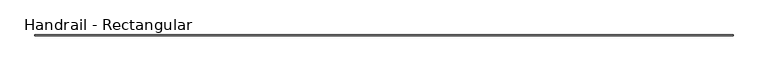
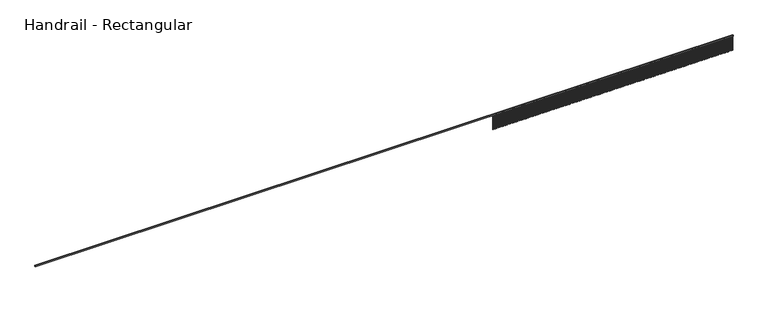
"""IFC4 building model written with IfcOpenShell, lengths in millimetres: railing geometry, Handrail - Rectangular."""

from ifc_helpers import new_model, si_unit, frame, origin, place, context, project, spatial, polyline, outline, extrude, source, transform, mapped, element, save


def handrail_rectangular_5135126e(model_context):
    return source(origin(), model_context, "Body", "SweptSolid", [
        extrude(outline(polyline([(-10763.3058351, 4050.8975872), (-10763.3058351, 4101.6975872), (29484.5633409, 4101.6975872), (29484.5633409, 4050.8975872), (-10763.3058351, 4050.8975872)])), frame((0.0, 0.0, 4521.2), z_axis=(0.0, 0.0, 1.0), x_axis=(1.0, 0.0, 0.0)), (0.0, 0.0, 1.0), 50.8),
        extrude(outline(polyline([(29460.7691649, 4066.7725872), (29460.7691649, 4085.8225872), (29479.8191649, 4085.8225872), (29479.8191649, 4066.7725872), (29460.7691649, 4066.7725872)])), frame((0.0, 0.0, 3657.6), z_axis=(0.0, 0.0, 1.0), x_axis=(1.0, 0.0, 0.0)), (0.0, 0.0, 1.0), 863.6),
        extrude(outline(polyline([(29359.1691649, 4066.7725872), (29359.1691649, 4085.8225872), (29378.2191649, 4085.8225872), (29378.2191649, 4066.7725872), (29359.1691649, 4066.7725872)])), frame((0.0, 0.0, 3657.6), z_axis=(0.0, 0.0, 1.0), x_axis=(1.0, 0.0, 0.0)), (0.0, 0.0, 1.0), 863.6),
        extrude(outline(polyline([(29257.5691649, 4066.7725872), (29257.5691649, 4085.8225872), (29276.6191649, 4085.8225872), (29276.6191649, 4066.7725872), (29257.5691649, 4066.7725872)])), frame((0.0, 0.0, 3657.6), z_axis=(0.0, 0.0, 1.0), x_axis=(1.0, 0.0, 0.0)), (0.0, 0.0, 1.0), 863.6),
        extrude(outline(polyline([(29155.9691649, 4066.7725872), (29155.9691649, 4085.8225872), (29175.0191649, 4085.8225872), (29175.0191649, 4066.7725872), (29155.9691649, 4066.7725872)])), frame((0.0, 0.0, 3657.6), z_axis=(0.0, 0.0, 1.0), x_axis=(1.0, 0.0, 0.0)), (0.0, 0.0, 1.0), 863.6),
        extrude(outline(polyline([(29054.3691649, 4066.7725872), (29054.3691649, 4085.8225872), (29073.4191649, 4085.8225872), (29073.4191649, 4066.7725872), (29054.3691649, 4066.7725872)])), frame((0.0, 0.0, 3657.6), z_axis=(0.0, 0.0, 1.0), x_axis=(1.0, 0.0, 0.0)), (0.0, 0.0, 1.0), 863.6),
        extrude(outline(polyline([(28952.7691649, 4066.7725872), (28952.7691649, 4085.8225872), (28971.8191649, 4085.8225872), (28971.8191649, 4066.7725872), (28952.7691649, 4066.7725872)])), frame((0.0, 0.0, 3657.6), z_axis=(0.0, 0.0, 1.0), x_axis=(1.0, 0.0, 0.0)), (0.0, 0.0, 1.0), 863.6),
        extrude(outline(polyline([(28851.1691649, 4066.7725872), (28851.1691649, 4085.8225872), (28870.2191649, 4085.8225872), (28870.2191649, 4066.7725872), (28851.1691649, 4066.7725872)])), frame((0.0, 0.0, 3657.6), z_axis=(0.0, 0.0, 1.0), x_axis=(1.0, 0.0, 0.0)), (0.0, 0.0, 1.0), 863.6),
        extrude(outline(polyline([(28749.5691649, 4066.7725872), (28749.5691649, 4085.8225872), (28768.6191649, 4085.8225872), (28768.6191649, 4066.7725872), (28749.5691649, 4066.7725872)])), frame((0.0, 0.0, 3657.6), z_axis=(0.0, 0.0, 1.0), x_axis=(1.0, 0.0, 0.0)), (0.0, 0.0, 1.0), 863.6),
        extrude(outline(polyline([(28647.9691649, 4066.7725872), (28647.9691649, 4085.8225872), (28667.0191649, 4085.8225872), (28667.0191649, 4066.7725872), (28647.9691649, 4066.7725872)])), frame((0.0, 0.0, 3657.6), z_axis=(0.0, 0.0, 1.0), x_axis=(1.0, 0.0, 0.0)), (0.0, 0.0, 1.0), 863.6),
        extrude(outline(polyline([(28546.3691649, 4066.7725872), (28546.3691649, 4085.8225872), (28565.4191649, 4085.8225872), (28565.4191649, 4066.7725872), (28546.3691649, 4066.7725872)])), frame((0.0, 0.0, 3657.6), z_axis=(0.0, 0.0, 1.0), x_axis=(1.0, 0.0, 0.0)), (0.0, 0.0, 1.0), 863.6),
        extrude(outline(polyline([(28444.7691649, 4066.7725872), (28444.7691649, 4085.8225872), (28463.8191649, 4085.8225872), (28463.8191649, 4066.7725872), (28444.7691649, 4066.7725872)])), frame((0.0, 0.0, 3657.6), z_axis=(0.0, 0.0, 1.0), x_axis=(1.0, 0.0, 0.0)), (0.0, 0.0, 1.0), 863.6),
        extrude(outline(polyline([(28343.1691649, 4066.7725872), (28343.1691649, 4085.8225872), (28362.2191649, 4085.8225872), (28362.2191649, 4066.7725872), (28343.1691649, 4066.7725872)])), frame((0.0, 0.0, 3657.6), z_axis=(0.0, 0.0, 1.0), x_axis=(1.0, 0.0, 0.0)), (0.0, 0.0, 1.0), 863.6),
        extrude(outline(polyline([(28241.5691649, 4066.7725872), (28241.5691649, 4085.8225872), (28260.6191649, 4085.8225872), (28260.6191649, 4066.7725872), (28241.5691649, 4066.7725872)])), frame((0.0, 0.0, 3657.6), z_axis=(0.0, 0.0, 1.0), x_axis=(1.0, 0.0, 0.0)), (0.0, 0.0, 1.0), 863.6),
        extrude(outline(polyline([(28139.9691649, 4066.7725872), (28139.9691649, 4085.8225872), (28159.0191649, 4085.8225872), (28159.0191649, 4066.7725872), (28139.9691649, 4066.7725872)])), frame((0.0, 0.0, 3657.6), z_axis=(0.0, 0.0, 1.0), x_axis=(1.0, 0.0, 0.0)), (0.0, 0.0, 1.0), 863.6),
        extrude(outline(polyline([(28038.3691649, 4066.7725872), (28038.3691649, 4085.8225872), (28057.4191649, 4085.8225872), (28057.4191649, 4066.7725872), (28038.3691649, 4066.7725872)])), frame((0.0, 0.0, 3657.6), z_axis=(0.0, 0.0, 1.0), x_axis=(1.0, 0.0, 0.0)), (0.0, 0.0, 1.0), 863.6),
        extrude(outline(polyline([(27936.7691649, 4066.7725872), (27936.7691649, 4085.8225872), (27955.8191649, 4085.8225872), (27955.8191649, 4066.7725872), (27936.7691649, 4066.7725872)])), frame((0.0, 0.0, 3657.6), z_axis=(0.0, 0.0, 1.0), x_axis=(1.0, 0.0, 0.0)), (0.0, 0.0, 1.0), 863.6),
        extrude(outline(polyline([(27835.1691649, 4066.7725872), (27835.1691649, 4085.8225872), (27854.2191649, 4085.8225872), (27854.2191649, 4066.7725872), (27835.1691649, 4066.7725872)])), frame((0.0, 0.0, 3657.6), z_axis=(0.0, 0.0, 1.0), x_axis=(1.0, 0.0, 0.0)), (0.0, 0.0, 1.0), 863.6),
        extrude(outline(polyline([(27733.5691649, 4066.7725872), (27733.5691649, 4085.8225872), (27752.6191649, 4085.8225872), (27752.6191649, 4066.7725872), (27733.5691649, 4066.7725872)])), frame((0.0, 0.0, 3657.6), z_axis=(0.0, 0.0, 1.0), x_axis=(1.0, 0.0, 0.0)), (0.0, 0.0, 1.0), 863.6),
        extrude(outline(polyline([(27631.9691649, 4066.7725872), (27631.9691649, 4085.8225872), (27651.0191649, 4085.8225872), (27651.0191649, 4066.7725872), (27631.9691649, 4066.7725872)])), frame((0.0, 0.0, 3657.6), z_axis=(0.0, 0.0, 1.0), x_axis=(1.0, 0.0, 0.0)), (0.0, 0.0, 1.0), 863.6),
        extrude(outline(polyline([(27530.3691649, 4066.7725872), (27530.3691649, 4085.8225872), (27549.4191649, 4085.8225872), (27549.4191649, 4066.7725872), (27530.3691649, 4066.7725872)])), frame((0.0, 0.0, 3657.6), z_axis=(0.0, 0.0, 1.0), x_axis=(1.0, 0.0, 0.0)), (0.0, 0.0, 1.0), 863.6),
        extrude(outline(polyline([(27428.7691649, 4066.7725872), (27428.7691649, 4085.8225872), (27447.8191649, 4085.8225872), (27447.8191649, 4066.7725872), (27428.7691649, 4066.7725872)])), frame((0.0, 0.0, 3657.6), z_axis=(0.0, 0.0, 1.0), x_axis=(1.0, 0.0, 0.0)), (0.0, 0.0, 1.0), 863.6),
        extrude(outline(polyline([(27327.1691649, 4066.7725872), (27327.1691649, 4085.8225872), (27346.2191649, 4085.8225872), (27346.2191649, 4066.7725872), (27327.1691649, 4066.7725872)])), frame((0.0, 0.0, 3657.6), z_axis=(0.0, 0.0, 1.0), x_axis=(1.0, 0.0, 0.0)), (0.0, 0.0, 1.0), 863.6),
        extrude(outline(polyline([(27225.5691649, 4066.7725872), (27225.5691649, 4085.8225872), (27244.6191649, 4085.8225872), (27244.6191649, 4066.7725872), (27225.5691649, 4066.7725872)])), frame((0.0, 0.0, 3657.6), z_axis=(0.0, 0.0, 1.0), x_axis=(1.0, 0.0, 0.0)), (0.0, 0.0, 1.0), 863.6),
        extrude(outline(polyline([(27123.9691649, 4066.7725872), (27123.9691649, 4085.8225872), (27143.0191649, 4085.8225872), (27143.0191649, 4066.7725872), (27123.9691649, 4066.7725872)])), frame((0.0, 0.0, 3657.6), z_axis=(0.0, 0.0, 1.0), x_axis=(1.0, 0.0, 0.0)), (0.0, 0.0, 1.0), 863.6),
        extrude(outline(polyline([(27022.3691649, 4066.7725872), (27022.3691649, 4085.8225872), (27041.4191649, 4085.8225872), (27041.4191649, 4066.7725872), (27022.3691649, 4066.7725872)])), frame((0.0, 0.0, 3657.6), z_axis=(0.0, 0.0, 1.0), x_axis=(1.0, 0.0, 0.0)), (0.0, 0.0, 1.0), 863.6),
        extrude(outline(polyline([(26920.7691649, 4066.7725872), (26920.7691649, 4085.8225872), (26939.8191649, 4085.8225872), (26939.8191649, 4066.7725872), (26920.7691649, 4066.7725872)])), frame((0.0, 0.0, 3657.6), z_axis=(0.0, 0.0, 1.0), x_axis=(1.0, 0.0, 0.0)), (0.0, 0.0, 1.0), 863.6),
        extrude(outline(polyline([(26819.1691649, 4066.7725872), (26819.1691649, 4085.8225872), (26838.2191649, 4085.8225872), (26838.2191649, 4066.7725872), (26819.1691649, 4066.7725872)])), frame((0.0, 0.0, 3657.6), z_axis=(0.0, 0.0, 1.0), x_axis=(1.0, 0.0, 0.0)), (0.0, 0.0, 1.0), 863.6),
        extrude(outline(polyline([(26717.5691649, 4066.7725872), (26717.5691649, 4085.8225872), (26736.6191649, 4085.8225872), (26736.6191649, 4066.7725872), (26717.5691649, 4066.7725872)])), frame((0.0, 0.0, 3657.6), z_axis=(0.0, 0.0, 1.0), x_axis=(1.0, 0.0, 0.0)), (0.0, 0.0, 1.0), 863.6),
        extrude(outline(polyline([(26615.9691649, 4066.7725872), (26615.9691649, 4085.8225872), (26635.0191649, 4085.8225872), (26635.0191649, 4066.7725872), (26615.9691649, 4066.7725872)])), frame((0.0, 0.0, 3657.6), z_axis=(0.0, 0.0, 1.0), x_axis=(1.0, 0.0, 0.0)), (0.0, 0.0, 1.0), 863.6),
        extrude(outline(polyline([(26514.3691649, 4066.7725872), (26514.3691649, 4085.8225872), (26533.4191649, 4085.8225872), (26533.4191649, 4066.7725872), (26514.3691649, 4066.7725872)])), frame((0.0, 0.0, 3657.6), z_axis=(0.0, 0.0, 1.0), x_axis=(1.0, 0.0, 0.0)), (0.0, 0.0, 1.0), 863.6),
        extrude(outline(polyline([(26412.7691649, 4066.7725872), (26412.7691649, 4085.8225872), (26431.8191649, 4085.8225872), (26431.8191649, 4066.7725872), (26412.7691649, 4066.7725872)])), frame((0.0, 0.0, 3657.6), z_axis=(0.0, 0.0, 1.0), x_axis=(1.0, 0.0, 0.0)), (0.0, 0.0, 1.0), 863.6),
        extrude(outline(polyline([(26311.1691649, 4066.7725872), (26311.1691649, 4085.8225872), (26330.2191649, 4085.8225872), (26330.2191649, 4066.7725872), (26311.1691649, 4066.7725872)])), frame((0.0, 0.0, 3657.6), z_axis=(0.0, 0.0, 1.0), x_axis=(1.0, 0.0, 0.0)), (0.0, 0.0, 1.0), 863.6),
        extrude(outline(polyline([(26209.5691649, 4066.7725872), (26209.5691649, 4085.8225872), (26228.6191649, 4085.8225872), (26228.6191649, 4066.7725872), (26209.5691649, 4066.7725872)])), frame((0.0, 0.0, 3657.6), z_axis=(0.0, 0.0, 1.0), x_axis=(1.0, 0.0, 0.0)), (0.0, 0.0, 1.0), 863.6),
        extrude(outline(polyline([(26107.9691649, 4066.7725872), (26107.9691649, 4085.8225872), (26127.0191649, 4085.8225872), (26127.0191649, 4066.7725872), (26107.9691649, 4066.7725872)])), frame((0.0, 0.0, 3657.6), z_axis=(0.0, 0.0, 1.0), x_axis=(1.0, 0.0, 0.0)), (0.0, 0.0, 1.0), 863.6),
        extrude(outline(polyline([(26006.3691649, 4066.7725872), (26006.3691649, 4085.8225872), (26025.4191649, 4085.8225872), (26025.4191649, 4066.7725872), (26006.3691649, 4066.7725872)])), frame((0.0, 0.0, 3657.6), z_axis=(0.0, 0.0, 1.0), x_axis=(1.0, 0.0, 0.0)), (0.0, 0.0, 1.0), 863.6),
        extrude(outline(polyline([(25904.7691649, 4066.7725872), (25904.7691649, 4085.8225872), (25923.8191649, 4085.8225872), (25923.8191649, 4066.7725872), (25904.7691649, 4066.7725872)])), frame((0.0, 0.0, 3657.6), z_axis=(0.0, 0.0, 1.0), x_axis=(1.0, 0.0, 0.0)), (0.0, 0.0, 1.0), 863.6),
        extrude(outline(polyline([(25803.1691649, 4066.7725872), (25803.1691649, 4085.8225872), (25822.2191649, 4085.8225872), (25822.2191649, 4066.7725872), (25803.1691649, 4066.7725872)])), frame((0.0, 0.0, 3657.6), z_axis=(0.0, 0.0, 1.0), x_axis=(1.0, 0.0, 0.0)), (0.0, 0.0, 1.0), 863.6),
        extrude(outline(polyline([(25701.5691649, 4066.7725872), (25701.5691649, 4085.8225872), (25720.6191649, 4085.8225872), (25720.6191649, 4066.7725872), (25701.5691649, 4066.7725872)])), frame((0.0, 0.0, 3657.6), z_axis=(0.0, 0.0, 1.0), x_axis=(1.0, 0.0, 0.0)), (0.0, 0.0, 1.0), 863.6),
        extrude(outline(polyline([(25599.9691649, 4066.7725872), (25599.9691649, 4085.8225872), (25619.0191649, 4085.8225872), (25619.0191649, 4066.7725872), (25599.9691649, 4066.7725872)])), frame((0.0, 0.0, 3657.6), z_axis=(0.0, 0.0, 1.0), x_axis=(1.0, 0.0, 0.0)), (0.0, 0.0, 1.0), 863.6),
        extrude(outline(polyline([(25498.3691649, 4066.7725872), (25498.3691649, 4085.8225872), (25517.4191649, 4085.8225872), (25517.4191649, 4066.7725872), (25498.3691649, 4066.7725872)])), frame((0.0, 0.0, 3657.6), z_axis=(0.0, 0.0, 1.0), x_axis=(1.0, 0.0, 0.0)), (0.0, 0.0, 1.0), 863.6),
        extrude(outline(polyline([(25396.7691649, 4066.7725872), (25396.7691649, 4085.8225872), (25415.8191649, 4085.8225872), (25415.8191649, 4066.7725872), (25396.7691649, 4066.7725872)])), frame((0.0, 0.0, 3657.6), z_axis=(0.0, 0.0, 1.0), x_axis=(1.0, 0.0, 0.0)), (0.0, 0.0, 1.0), 863.6),
        extrude(outline(polyline([(25295.1691649, 4066.7725872), (25295.1691649, 4085.8225872), (25314.2191649, 4085.8225872), (25314.2191649, 4066.7725872), (25295.1691649, 4066.7725872)])), frame((0.0, 0.0, 3657.6), z_axis=(0.0, 0.0, 1.0), x_axis=(1.0, 0.0, 0.0)), (0.0, 0.0, 1.0), 863.6),
        extrude(outline(polyline([(25193.5691649, 4066.7725872), (25193.5691649, 4085.8225872), (25212.6191649, 4085.8225872), (25212.6191649, 4066.7725872), (25193.5691649, 4066.7725872)])), frame((0.0, 0.0, 3657.6), z_axis=(0.0, 0.0, 1.0), x_axis=(1.0, 0.0, 0.0)), (0.0, 0.0, 1.0), 863.6),
        extrude(outline(polyline([(25091.9691649, 4066.7725872), (25091.9691649, 4085.8225872), (25111.0191649, 4085.8225872), (25111.0191649, 4066.7725872), (25091.9691649, 4066.7725872)])), frame((0.0, 0.0, 3657.6), z_axis=(0.0, 0.0, 1.0), x_axis=(1.0, 0.0, 0.0)), (0.0, 0.0, 1.0), 863.6),
        extrude(outline(polyline([(24990.3691649, 4066.7725872), (24990.3691649, 4085.8225872), (25009.4191649, 4085.8225872), (25009.4191649, 4066.7725872), (24990.3691649, 4066.7725872)])), frame((0.0, 0.0, 3657.6), z_axis=(0.0, 0.0, 1.0), x_axis=(1.0, 0.0, 0.0)), (0.0, 0.0, 1.0), 863.6),
        extrude(outline(polyline([(24888.7691649, 4066.7725872), (24888.7691649, 4085.8225872), (24907.8191649, 4085.8225872), (24907.8191649, 4066.7725872), (24888.7691649, 4066.7725872)])), frame((0.0, 0.0, 3657.6), z_axis=(0.0, 0.0, 1.0), x_axis=(1.0, 0.0, 0.0)), (0.0, 0.0, 1.0), 863.6),
        extrude(outline(polyline([(24787.1691649, 4066.7725872), (24787.1691649, 4085.8225872), (24806.2191649, 4085.8225872), (24806.2191649, 4066.7725872), (24787.1691649, 4066.7725872)])), frame((0.0, 0.0, 3657.6), z_axis=(0.0, 0.0, 1.0), x_axis=(1.0, 0.0, 0.0)), (0.0, 0.0, 1.0), 863.6),
        extrude(outline(polyline([(24685.5691649, 4066.7725872), (24685.5691649, 4085.8225872), (24704.6191649, 4085.8225872), (24704.6191649, 4066.7725872), (24685.5691649, 4066.7725872)])), frame((0.0, 0.0, 3657.6), z_axis=(0.0, 0.0, 1.0), x_axis=(1.0, 0.0, 0.0)), (0.0, 0.0, 1.0), 863.6),
        extrude(outline(polyline([(24583.9691649, 4066.7725872), (24583.9691649, 4085.8225872), (24603.0191649, 4085.8225872), (24603.0191649, 4066.7725872), (24583.9691649, 4066.7725872)])), frame((0.0, 0.0, 3657.6), z_axis=(0.0, 0.0, 1.0), x_axis=(1.0, 0.0, 0.0)), (0.0, 0.0, 1.0), 863.6),
        extrude(outline(polyline([(24482.3691649, 4066.7725872), (24482.3691649, 4085.8225872), (24501.4191649, 4085.8225872), (24501.4191649, 4066.7725872), (24482.3691649, 4066.7725872)])), frame((0.0, 0.0, 3657.6), z_axis=(0.0, 0.0, 1.0), x_axis=(1.0, 0.0, 0.0)), (0.0, 0.0, 1.0), 863.6),
        extrude(outline(polyline([(24380.7691649, 4066.7725872), (24380.7691649, 4085.8225872), (24399.8191649, 4085.8225872), (24399.8191649, 4066.7725872), (24380.7691649, 4066.7725872)])), frame((0.0, 0.0, 3657.6), z_axis=(0.0, 0.0, 1.0), x_axis=(1.0, 0.0, 0.0)), (0.0, 0.0, 1.0), 863.6),
        extrude(outline(polyline([(24279.1691649, 4066.7725872), (24279.1691649, 4085.8225872), (24298.2191649, 4085.8225872), (24298.2191649, 4066.7725872), (24279.1691649, 4066.7725872)])), frame((0.0, 0.0, 3657.6), z_axis=(0.0, 0.0, 1.0), x_axis=(1.0, 0.0, 0.0)), (0.0, 0.0, 1.0), 863.6),
        extrude(outline(polyline([(24177.5691649, 4066.7725872), (24177.5691649, 4085.8225872), (24196.6191649, 4085.8225872), (24196.6191649, 4066.7725872), (24177.5691649, 4066.7725872)])), frame((0.0, 0.0, 3657.6), z_axis=(0.0, 0.0, 1.0), x_axis=(1.0, 0.0, 0.0)), (0.0, 0.0, 1.0), 863.6),
        extrude(outline(polyline([(24075.9691649, 4066.7725872), (24075.9691649, 4085.8225872), (24095.0191649, 4085.8225872), (24095.0191649, 4066.7725872), (24075.9691649, 4066.7725872)])), frame((0.0, 0.0, 3657.6), z_axis=(0.0, 0.0, 1.0), x_axis=(1.0, 0.0, 0.0)), (0.0, 0.0, 1.0), 863.6),
        extrude(outline(polyline([(23974.3691649, 4066.7725872), (23974.3691649, 4085.8225872), (23993.4191649, 4085.8225872), (23993.4191649, 4066.7725872), (23974.3691649, 4066.7725872)])), frame((0.0, 0.0, 3657.6), z_axis=(0.0, 0.0, 1.0), x_axis=(1.0, 0.0, 0.0)), (0.0, 0.0, 1.0), 863.6),
        extrude(outline(polyline([(23872.7691649, 4066.7725872), (23872.7691649, 4085.8225872), (23891.8191649, 4085.8225872), (23891.8191649, 4066.7725872), (23872.7691649, 4066.7725872)])), frame((0.0, 0.0, 3657.6), z_axis=(0.0, 0.0, 1.0), x_axis=(1.0, 0.0, 0.0)), (0.0, 0.0, 1.0), 863.6),
        extrude(outline(polyline([(23771.1691649, 4066.7725872), (23771.1691649, 4085.8225872), (23790.2191649, 4085.8225872), (23790.2191649, 4066.7725872), (23771.1691649, 4066.7725872)])), frame((0.0, 0.0, 3657.6), z_axis=(0.0, 0.0, 1.0), x_axis=(1.0, 0.0, 0.0)), (0.0, 0.0, 1.0), 863.6),
        extrude(outline(polyline([(23669.5691649, 4066.7725872), (23669.5691649, 4085.8225872), (23688.6191649, 4085.8225872), (23688.6191649, 4066.7725872), (23669.5691649, 4066.7725872)])), frame((0.0, 0.0, 3657.6), z_axis=(0.0, 0.0, 1.0), x_axis=(1.0, 0.0, 0.0)), (0.0, 0.0, 1.0), 863.6),
        extrude(outline(polyline([(23567.9691649, 4066.7725872), (23567.9691649, 4085.8225872), (23587.0191649, 4085.8225872), (23587.0191649, 4066.7725872), (23567.9691649, 4066.7725872)])), frame((0.0, 0.0, 3657.6), z_axis=(0.0, 0.0, 1.0), x_axis=(1.0, 0.0, 0.0)), (0.0, 0.0, 1.0), 863.6),
        extrude(outline(polyline([(23466.3691649, 4066.7725872), (23466.3691649, 4085.8225872), (23485.4191649, 4085.8225872), (23485.4191649, 4066.7725872), (23466.3691649, 4066.7725872)])), frame((0.0, 0.0, 3657.6), z_axis=(0.0, 0.0, 1.0), x_axis=(1.0, 0.0, 0.0)), (0.0, 0.0, 1.0), 863.6),
        extrude(outline(polyline([(23364.7691649, 4066.7725872), (23364.7691649, 4085.8225872), (23383.8191649, 4085.8225872), (23383.8191649, 4066.7725872), (23364.7691649, 4066.7725872)])), frame((0.0, 0.0, 3657.6), z_axis=(0.0, 0.0, 1.0), x_axis=(1.0, 0.0, 0.0)), (0.0, 0.0, 1.0), 863.6),
        extrude(outline(polyline([(23263.1691649, 4066.7725872), (23263.1691649, 4085.8225872), (23282.2191649, 4085.8225872), (23282.2191649, 4066.7725872), (23263.1691649, 4066.7725872)])), frame((0.0, 0.0, 3657.6), z_axis=(0.0, 0.0, 1.0), x_axis=(1.0, 0.0, 0.0)), (0.0, 0.0, 1.0), 863.6),
        extrude(outline(polyline([(23161.5691649, 4066.7725872), (23161.5691649, 4085.8225872), (23180.6191649, 4085.8225872), (23180.6191649, 4066.7725872), (23161.5691649, 4066.7725872)])), frame((0.0, 0.0, 3657.6), z_axis=(0.0, 0.0, 1.0), x_axis=(1.0, 0.0, 0.0)), (0.0, 0.0, 1.0), 863.6),
        extrude(outline(polyline([(23059.9691649, 4066.7725872), (23059.9691649, 4085.8225872), (23079.0191649, 4085.8225872), (23079.0191649, 4066.7725872), (23059.9691649, 4066.7725872)])), frame((0.0, 0.0, 3657.6), z_axis=(0.0, 0.0, 1.0), x_axis=(1.0, 0.0, 0.0)), (0.0, 0.0, 1.0), 863.6),
        extrude(outline(polyline([(22958.3691649, 4066.7725872), (22958.3691649, 4085.8225872), (22977.4191649, 4085.8225872), (22977.4191649, 4066.7725872), (22958.3691649, 4066.7725872)])), frame((0.0, 0.0, 3657.6), z_axis=(0.0, 0.0, 1.0), x_axis=(1.0, 0.0, 0.0)), (0.0, 0.0, 1.0), 863.6),
        extrude(outline(polyline([(22856.7691649, 4066.7725872), (22856.7691649, 4085.8225872), (22875.8191649, 4085.8225872), (22875.8191649, 4066.7725872), (22856.7691649, 4066.7725872)])), frame((0.0, 0.0, 3657.6), z_axis=(0.0, 0.0, 1.0), x_axis=(1.0, 0.0, 0.0)), (0.0, 0.0, 1.0), 863.6),
        extrude(outline(polyline([(22755.1691649, 4066.7725872), (22755.1691649, 4085.8225872), (22774.2191649, 4085.8225872), (22774.2191649, 4066.7725872), (22755.1691649, 4066.7725872)])), frame((0.0, 0.0, 3657.6), z_axis=(0.0, 0.0, 1.0), x_axis=(1.0, 0.0, 0.0)), (0.0, 0.0, 1.0), 863.6),
        extrude(outline(polyline([(22653.5691649, 4066.7725872), (22653.5691649, 4085.8225872), (22672.6191649, 4085.8225872), (22672.6191649, 4066.7725872), (22653.5691649, 4066.7725872)])), frame((0.0, 0.0, 3657.6), z_axis=(0.0, 0.0, 1.0), x_axis=(1.0, 0.0, 0.0)), (0.0, 0.0, 1.0), 863.6),
        extrude(outline(polyline([(22551.9691649, 4066.7725872), (22551.9691649, 4085.8225872), (22571.0191649, 4085.8225872), (22571.0191649, 4066.7725872), (22551.9691649, 4066.7725872)])), frame((0.0, 0.0, 3657.6), z_axis=(0.0, 0.0, 1.0), x_axis=(1.0, 0.0, 0.0)), (0.0, 0.0, 1.0), 863.6),
        extrude(outline(polyline([(22450.3691649, 4066.7725872), (22450.3691649, 4085.8225872), (22469.4191649, 4085.8225872), (22469.4191649, 4066.7725872), (22450.3691649, 4066.7725872)])), frame((0.0, 0.0, 3657.6), z_axis=(0.0, 0.0, 1.0), x_axis=(1.0, 0.0, 0.0)), (0.0, 0.0, 1.0), 863.6),
        extrude(outline(polyline([(22348.7691649, 4066.7725872), (22348.7691649, 4085.8225872), (22367.8191649, 4085.8225872), (22367.8191649, 4066.7725872), (22348.7691649, 4066.7725872)])), frame((0.0, 0.0, 3657.6), z_axis=(0.0, 0.0, 1.0), x_axis=(1.0, 0.0, 0.0)), (0.0, 0.0, 1.0), 863.6),
        extrude(outline(polyline([(22247.1691649, 4066.7725872), (22247.1691649, 4085.8225872), (22266.2191649, 4085.8225872), (22266.2191649, 4066.7725872), (22247.1691649, 4066.7725872)])), frame((0.0, 0.0, 3657.6), z_axis=(0.0, 0.0, 1.0), x_axis=(1.0, 0.0, 0.0)), (0.0, 0.0, 1.0), 863.6),
        extrude(outline(polyline([(22145.5691649, 4066.7725872), (22145.5691649, 4085.8225872), (22164.6191649, 4085.8225872), (22164.6191649, 4066.7725872), (22145.5691649, 4066.7725872)])), frame((0.0, 0.0, 3657.6), z_axis=(0.0, 0.0, 1.0), x_axis=(1.0, 0.0, 0.0)), (0.0, 0.0, 1.0), 863.6),
        extrude(outline(polyline([(22043.9691649, 4066.7725872), (22043.9691649, 4085.8225872), (22063.0191649, 4085.8225872), (22063.0191649, 4066.7725872), (22043.9691649, 4066.7725872)])), frame((0.0, 0.0, 3657.6), z_axis=(0.0, 0.0, 1.0), x_axis=(1.0, 0.0, 0.0)), (0.0, 0.0, 1.0), 863.6),
        extrude(outline(polyline([(21942.3691649, 4066.7725872), (21942.3691649, 4085.8225872), (21961.4191649, 4085.8225872), (21961.4191649, 4066.7725872), (21942.3691649, 4066.7725872)])), frame((0.0, 0.0, 3657.6), z_axis=(0.0, 0.0, 1.0), x_axis=(1.0, 0.0, 0.0)), (0.0, 0.0, 1.0), 863.6),
        extrude(outline(polyline([(21840.7691649, 4066.7725872), (21840.7691649, 4085.8225872), (21859.8191649, 4085.8225872), (21859.8191649, 4066.7725872), (21840.7691649, 4066.7725872)])), frame((0.0, 0.0, 3657.6), z_axis=(0.0, 0.0, 1.0), x_axis=(1.0, 0.0, 0.0)), (0.0, 0.0, 1.0), 863.6),
        extrude(outline(polyline([(21739.1691649, 4066.7725872), (21739.1691649, 4085.8225872), (21758.2191649, 4085.8225872), (21758.2191649, 4066.7725872), (21739.1691649, 4066.7725872)])), frame((0.0, 0.0, 3657.6), z_axis=(0.0, 0.0, 1.0), x_axis=(1.0, 0.0, 0.0)), (0.0, 0.0, 1.0), 863.6),
        extrude(outline(polyline([(21637.5691649, 4066.7725872), (21637.5691649, 4085.8225872), (21656.6191649, 4085.8225872), (21656.6191649, 4066.7725872), (21637.5691649, 4066.7725872)])), frame((0.0, 0.0, 3657.6), z_axis=(0.0, 0.0, 1.0), x_axis=(1.0, 0.0, 0.0)), (0.0, 0.0, 1.0), 863.6),
        extrude(outline(polyline([(21535.9691649, 4066.7725872), (21535.9691649, 4085.8225872), (21555.0191649, 4085.8225872), (21555.0191649, 4066.7725872), (21535.9691649, 4066.7725872)])), frame((0.0, 0.0, 3657.6), z_axis=(0.0, 0.0, 1.0), x_axis=(1.0, 0.0, 0.0)), (0.0, 0.0, 1.0), 863.6),
        extrude(outline(polyline([(21434.3691649, 4066.7725872), (21434.3691649, 4085.8225872), (21453.4191649, 4085.8225872), (21453.4191649, 4066.7725872), (21434.3691649, 4066.7725872)])), frame((0.0, 0.0, 3657.6), z_axis=(0.0, 0.0, 1.0), x_axis=(1.0, 0.0, 0.0)), (0.0, 0.0, 1.0), 863.6),
        extrude(outline(polyline([(21332.7691649, 4066.7725872), (21332.7691649, 4085.8225872), (21351.8191649, 4085.8225872), (21351.8191649, 4066.7725872), (21332.7691649, 4066.7725872)])), frame((0.0, 0.0, 3657.6), z_axis=(0.0, 0.0, 1.0), x_axis=(1.0, 0.0, 0.0)), (0.0, 0.0, 1.0), 863.6),
        extrude(outline(polyline([(21231.1691649, 4066.7725872), (21231.1691649, 4085.8225872), (21250.2191649, 4085.8225872), (21250.2191649, 4066.7725872), (21231.1691649, 4066.7725872)])), frame((0.0, 0.0, 3657.6), z_axis=(0.0, 0.0, 1.0), x_axis=(1.0, 0.0, 0.0)), (0.0, 0.0, 1.0), 863.6),
        extrude(outline(polyline([(21129.5691649, 4066.7725872), (21129.5691649, 4085.8225872), (21148.6191649, 4085.8225872), (21148.6191649, 4066.7725872), (21129.5691649, 4066.7725872)])), frame((0.0, 0.0, 3657.6), z_axis=(0.0, 0.0, 1.0), x_axis=(1.0, 0.0, 0.0)), (0.0, 0.0, 1.0), 863.6),
        extrude(outline(polyline([(21027.9691649, 4066.7725872), (21027.9691649, 4085.8225872), (21047.0191649, 4085.8225872), (21047.0191649, 4066.7725872), (21027.9691649, 4066.7725872)])), frame((0.0, 0.0, 3657.6), z_axis=(0.0, 0.0, 1.0), x_axis=(1.0, 0.0, 0.0)), (0.0, 0.0, 1.0), 863.6),
        extrude(outline(polyline([(20926.3691649, 4066.7725872), (20926.3691649, 4085.8225872), (20945.4191649, 4085.8225872), (20945.4191649, 4066.7725872), (20926.3691649, 4066.7725872)])), frame((0.0, 0.0, 3657.6), z_axis=(0.0, 0.0, 1.0), x_axis=(1.0, 0.0, 0.0)), (0.0, 0.0, 1.0), 863.6),
        extrude(outline(polyline([(20824.7691649, 4066.7725872), (20824.7691649, 4085.8225872), (20843.8191649, 4085.8225872), (20843.8191649, 4066.7725872), (20824.7691649, 4066.7725872)])), frame((0.0, 0.0, 3657.6), z_axis=(0.0, 0.0, 1.0), x_axis=(1.0, 0.0, 0.0)), (0.0, 0.0, 1.0), 863.6),
        extrude(outline(polyline([(20723.1691649, 4066.7725872), (20723.1691649, 4085.8225872), (20742.2191649, 4085.8225872), (20742.2191649, 4066.7725872), (20723.1691649, 4066.7725872)])), frame((0.0, 0.0, 3657.6), z_axis=(0.0, 0.0, 1.0), x_axis=(1.0, 0.0, 0.0)), (0.0, 0.0, 1.0), 863.6),
        extrude(outline(polyline([(20621.5691649, 4066.7725872), (20621.5691649, 4085.8225872), (20640.6191649, 4085.8225872), (20640.6191649, 4066.7725872), (20621.5691649, 4066.7725872)])), frame((0.0, 0.0, 3657.6), z_axis=(0.0, 0.0, 1.0), x_axis=(1.0, 0.0, 0.0)), (0.0, 0.0, 1.0), 863.6),
        extrude(outline(polyline([(20519.9691649, 4066.7725872), (20519.9691649, 4085.8225872), (20539.0191649, 4085.8225872), (20539.0191649, 4066.7725872), (20519.9691649, 4066.7725872)])), frame((0.0, 0.0, 3657.6), z_axis=(0.0, 0.0, 1.0), x_axis=(1.0, 0.0, 0.0)), (0.0, 0.0, 1.0), 863.6),
        extrude(outline(polyline([(20418.3691649, 4066.7725872), (20418.3691649, 4085.8225872), (20437.4191649, 4085.8225872), (20437.4191649, 4066.7725872), (20418.3691649, 4066.7725872)])), frame((0.0, 0.0, 3657.6), z_axis=(0.0, 0.0, 1.0), x_axis=(1.0, 0.0, 0.0)), (0.0, 0.0, 1.0), 863.6),
        extrude(outline(polyline([(20316.7691649, 4066.7725872), (20316.7691649, 4085.8225872), (20335.8191649, 4085.8225872), (20335.8191649, 4066.7725872), (20316.7691649, 4066.7725872)])), frame((0.0, 0.0, 3657.6), z_axis=(0.0, 0.0, 1.0), x_axis=(1.0, 0.0, 0.0)), (0.0, 0.0, 1.0), 863.6),
        extrude(outline(polyline([(20215.1691649, 4066.7725872), (20215.1691649, 4085.8225872), (20234.2191649, 4085.8225872), (20234.2191649, 4066.7725872), (20215.1691649, 4066.7725872)])), frame((0.0, 0.0, 3657.6), z_axis=(0.0, 0.0, 1.0), x_axis=(1.0, 0.0, 0.0)), (0.0, 0.0, 1.0), 863.6),
        extrude(outline(polyline([(20113.5691649, 4066.7725872), (20113.5691649, 4085.8225872), (20132.6191649, 4085.8225872), (20132.6191649, 4066.7725872), (20113.5691649, 4066.7725872)])), frame((0.0, 0.0, 3657.6), z_axis=(0.0, 0.0, 1.0), x_axis=(1.0, 0.0, 0.0)), (0.0, 0.0, 1.0), 863.6),
        extrude(outline(polyline([(20011.9691649, 4066.7725872), (20011.9691649, 4085.8225872), (20031.0191649, 4085.8225872), (20031.0191649, 4066.7725872), (20011.9691649, 4066.7725872)])), frame((0.0, 0.0, 3657.6), z_axis=(0.0, 0.0, 1.0), x_axis=(1.0, 0.0, 0.0)), (0.0, 0.0, 1.0), 863.6),
        extrude(outline(polyline([(19910.3691649, 4066.7725872), (19910.3691649, 4085.8225872), (19929.4191649, 4085.8225872), (19929.4191649, 4066.7725872), (19910.3691649, 4066.7725872)])), frame((0.0, 0.0, 3657.6), z_axis=(0.0, 0.0, 1.0), x_axis=(1.0, 0.0, 0.0)), (0.0, 0.0, 1.0), 863.6),
        extrude(outline(polyline([(19808.7691649, 4066.7725872), (19808.7691649, 4085.8225872), (19827.8191649, 4085.8225872), (19827.8191649, 4066.7725872), (19808.7691649, 4066.7725872)])), frame((0.0, 0.0, 3657.6), z_axis=(0.0, 0.0, 1.0), x_axis=(1.0, 0.0, 0.0)), (0.0, 0.0, 1.0), 863.6),
        extrude(outline(polyline([(19707.1691649, 4066.7725872), (19707.1691649, 4085.8225872), (19726.2191649, 4085.8225872), (19726.2191649, 4066.7725872), (19707.1691649, 4066.7725872)])), frame((0.0, 0.0, 3657.6), z_axis=(0.0, 0.0, 1.0), x_axis=(1.0, 0.0, 0.0)), (0.0, 0.0, 1.0), 863.6),
        extrude(outline(polyline([(19605.5691649, 4066.7725872), (19605.5691649, 4085.8225872), (19624.6191649, 4085.8225872), (19624.6191649, 4066.7725872), (19605.5691649, 4066.7725872)])), frame((0.0, 0.0, 3657.6), z_axis=(0.0, 0.0, 1.0), x_axis=(1.0, 0.0, 0.0)), (0.0, 0.0, 1.0), 863.6),
        extrude(outline(polyline([(19503.9691649, 4066.7725872), (19503.9691649, 4085.8225872), (19523.0191649, 4085.8225872), (19523.0191649, 4066.7725872), (19503.9691649, 4066.7725872)])), frame((0.0, 0.0, 3657.6), z_axis=(0.0, 0.0, 1.0), x_axis=(1.0, 0.0, 0.0)), (0.0, 0.0, 1.0), 863.6),
        extrude(outline(polyline([(19402.3691649, 4066.7725872), (19402.3691649, 4085.8225872), (19421.4191649, 4085.8225872), (19421.4191649, 4066.7725872), (19402.3691649, 4066.7725872)])), frame((0.0, 0.0, 3657.6), z_axis=(0.0, 0.0, 1.0), x_axis=(1.0, 0.0, 0.0)), (0.0, 0.0, 1.0), 863.6),
        extrude(outline(polyline([(19300.7691649, 4066.7725872), (19300.7691649, 4085.8225872), (19319.8191649, 4085.8225872), (19319.8191649, 4066.7725872), (19300.7691649, 4066.7725872)])), frame((0.0, 0.0, 3657.6), z_axis=(0.0, 0.0, 1.0), x_axis=(1.0, 0.0, 0.0)), (0.0, 0.0, 1.0), 863.6),
        extrude(outline(polyline([(19199.1691649, 4066.7725872), (19199.1691649, 4085.8225872), (19218.2191649, 4085.8225872), (19218.2191649, 4066.7725872), (19199.1691649, 4066.7725872)])), frame((0.0, 0.0, 3657.6), z_axis=(0.0, 0.0, 1.0), x_axis=(1.0, 0.0, 0.0)), (0.0, 0.0, 1.0), 863.6),
        extrude(outline(polyline([(19097.5691649, 4066.7725872), (19097.5691649, 4085.8225872), (19116.6191649, 4085.8225872), (19116.6191649, 4066.7725872), (19097.5691649, 4066.7725872)])), frame((0.0, 0.0, 3657.6), z_axis=(0.0, 0.0, 1.0), x_axis=(1.0, 0.0, 0.0)), (0.0, 0.0, 1.0), 863.6),
        extrude(outline(polyline([(18995.9691649, 4066.7725872), (18995.9691649, 4085.8225872), (19015.0191649, 4085.8225872), (19015.0191649, 4066.7725872), (18995.9691649, 4066.7725872)])), frame((0.0, 0.0, 3657.6), z_axis=(0.0, 0.0, 1.0), x_axis=(1.0, 0.0, 0.0)), (0.0, 0.0, 1.0), 863.6),
        extrude(outline(polyline([(18894.3691649, 4066.7725872), (18894.3691649, 4085.8225872), (18913.4191649, 4085.8225872), (18913.4191649, 4066.7725872), (18894.3691649, 4066.7725872)])), frame((0.0, 0.0, 3657.6), z_axis=(0.0, 0.0, 1.0), x_axis=(1.0, 0.0, 0.0)), (0.0, 0.0, 1.0), 863.6),
        extrude(outline(polyline([(18792.7691649, 4066.7725872), (18792.7691649, 4085.8225872), (18811.8191649, 4085.8225872), (18811.8191649, 4066.7725872), (18792.7691649, 4066.7725872)])), frame((0.0, 0.0, 3657.6), z_axis=(0.0, 0.0, 1.0), x_axis=(1.0, 0.0, 0.0)), (0.0, 0.0, 1.0), 863.6),
        extrude(outline(polyline([(18691.1691649, 4066.7725872), (18691.1691649, 4085.8225872), (18710.2191649, 4085.8225872), (18710.2191649, 4066.7725872), (18691.1691649, 4066.7725872)])), frame((0.0, 0.0, 3657.6), z_axis=(0.0, 0.0, 1.0), x_axis=(1.0, 0.0, 0.0)), (0.0, 0.0, 1.0), 863.6),
        extrude(outline(polyline([(18589.5691649, 4066.7725872), (18589.5691649, 4085.8225872), (18608.6191649, 4085.8225872), (18608.6191649, 4066.7725872), (18589.5691649, 4066.7725872)])), frame((0.0, 0.0, 3657.6), z_axis=(0.0, 0.0, 1.0), x_axis=(1.0, 0.0, 0.0)), (0.0, 0.0, 1.0), 863.6),
        extrude(outline(polyline([(18487.9691649, 4066.7725872), (18487.9691649, 4085.8225872), (18507.0191649, 4085.8225872), (18507.0191649, 4066.7725872), (18487.9691649, 4066.7725872)])), frame((0.0, 0.0, 3657.6), z_axis=(0.0, 0.0, 1.0), x_axis=(1.0, 0.0, 0.0)), (0.0, 0.0, 1.0), 863.6),
        extrude(outline(polyline([(18386.3691649, 4066.7725872), (18386.3691649, 4085.8225872), (18405.4191649, 4085.8225872), (18405.4191649, 4066.7725872), (18386.3691649, 4066.7725872)])), frame((0.0, 0.0, 3657.6), z_axis=(0.0, 0.0, 1.0), x_axis=(1.0, 0.0, 0.0)), (0.0, 0.0, 1.0), 863.6),
        extrude(outline(polyline([(18284.7691649, 4066.7725872), (18284.7691649, 4085.8225872), (18303.8191649, 4085.8225872), (18303.8191649, 4066.7725872), (18284.7691649, 4066.7725872)])), frame((0.0, 0.0, 3657.6), z_axis=(0.0, 0.0, 1.0), x_axis=(1.0, 0.0, 0.0)), (0.0, 0.0, 1.0), 863.6),
        extrude(outline(polyline([(18183.1691649, 4066.7725872), (18183.1691649, 4085.8225872), (18202.2191649, 4085.8225872), (18202.2191649, 4066.7725872), (18183.1691649, 4066.7725872)])), frame((0.0, 0.0, 3657.6), z_axis=(0.0, 0.0, 1.0), x_axis=(1.0, 0.0, 0.0)), (0.0, 0.0, 1.0), 863.6),
        extrude(outline(polyline([(18081.5691649, 4066.7725872), (18081.5691649, 4085.8225872), (18100.6191649, 4085.8225872), (18100.6191649, 4066.7725872), (18081.5691649, 4066.7725872)])), frame((0.0, 0.0, 3657.6), z_axis=(0.0, 0.0, 1.0), x_axis=(1.0, 0.0, 0.0)), (0.0, 0.0, 1.0), 863.6),
        extrude(outline(polyline([(17979.9691649, 4066.7725872), (17979.9691649, 4085.8225872), (17999.0191649, 4085.8225872), (17999.0191649, 4066.7725872), (17979.9691649, 4066.7725872)])), frame((0.0, 0.0, 3657.6), z_axis=(0.0, 0.0, 1.0), x_axis=(1.0, 0.0, 0.0)), (0.0, 0.0, 1.0), 863.6),
        extrude(outline(polyline([(17878.3691649, 4066.7725872), (17878.3691649, 4085.8225872), (17897.4191649, 4085.8225872), (17897.4191649, 4066.7725872), (17878.3691649, 4066.7725872)])), frame((0.0, 0.0, 3657.6), z_axis=(0.0, 0.0, 1.0), x_axis=(1.0, 0.0, 0.0)), (0.0, 0.0, 1.0), 863.6),
        extrude(outline(polyline([(17776.7691649, 4066.7725872), (17776.7691649, 4085.8225872), (17795.8191649, 4085.8225872), (17795.8191649, 4066.7725872), (17776.7691649, 4066.7725872)])), frame((0.0, 0.0, 3657.6), z_axis=(0.0, 0.0, 1.0), x_axis=(1.0, 0.0, 0.0)), (0.0, 0.0, 1.0), 863.6),
        extrude(outline(polyline([(17675.1691649, 4066.7725872), (17675.1691649, 4085.8225872), (17694.2191649, 4085.8225872), (17694.2191649, 4066.7725872), (17675.1691649, 4066.7725872)])), frame((0.0, 0.0, 3657.6), z_axis=(0.0, 0.0, 1.0), x_axis=(1.0, 0.0, 0.0)), (0.0, 0.0, 1.0), 863.6),
        extrude(outline(polyline([(17573.5691649, 4066.7725872), (17573.5691649, 4085.8225872), (17592.6191649, 4085.8225872), (17592.6191649, 4066.7725872), (17573.5691649, 4066.7725872)])), frame((0.0, 0.0, 3657.6), z_axis=(0.0, 0.0, 1.0), x_axis=(1.0, 0.0, 0.0)), (0.0, 0.0, 1.0), 863.6),
        extrude(outline(polyline([(17471.9691649, 4066.7725872), (17471.9691649, 4085.8225872), (17491.0191649, 4085.8225872), (17491.0191649, 4066.7725872), (17471.9691649, 4066.7725872)])), frame((0.0, 0.0, 3657.6), z_axis=(0.0, 0.0, 1.0), x_axis=(1.0, 0.0, 0.0)), (0.0, 0.0, 1.0), 863.6),
        extrude(outline(polyline([(17370.3691649, 4066.7725872), (17370.3691649, 4085.8225872), (17389.4191649, 4085.8225872), (17389.4191649, 4066.7725872), (17370.3691649, 4066.7725872)])), frame((0.0, 0.0, 3657.6), z_axis=(0.0, 0.0, 1.0), x_axis=(1.0, 0.0, 0.0)), (0.0, 0.0, 1.0), 863.6),
        extrude(outline(polyline([(17268.7691649, 4066.7725872), (17268.7691649, 4085.8225872), (17287.8191649, 4085.8225872), (17287.8191649, 4066.7725872), (17268.7691649, 4066.7725872)])), frame((0.0, 0.0, 3657.6), z_axis=(0.0, 0.0, 1.0), x_axis=(1.0, 0.0, 0.0)), (0.0, 0.0, 1.0), 863.6),
        extrude(outline(polyline([(17167.1691649, 4066.7725872), (17167.1691649, 4085.8225872), (17186.2191649, 4085.8225872), (17186.2191649, 4066.7725872), (17167.1691649, 4066.7725872)])), frame((0.0, 0.0, 3657.6), z_axis=(0.0, 0.0, 1.0), x_axis=(1.0, 0.0, 0.0)), (0.0, 0.0, 1.0), 863.6),
        extrude(outline(polyline([(17065.5691649, 4066.7725872), (17065.5691649, 4085.8225872), (17084.6191649, 4085.8225872), (17084.6191649, 4066.7725872), (17065.5691649, 4066.7725872)])), frame((0.0, 0.0, 3657.6), z_axis=(0.0, 0.0, 1.0), x_axis=(1.0, 0.0, 0.0)), (0.0, 0.0, 1.0), 863.6),
        extrude(outline(polyline([(16963.9691649, 4066.7725872), (16963.9691649, 4085.8225872), (16983.0191649, 4085.8225872), (16983.0191649, 4066.7725872), (16963.9691649, 4066.7725872)])), frame((0.0, 0.0, 3657.6), z_axis=(0.0, 0.0, 1.0), x_axis=(1.0, 0.0, 0.0)), (0.0, 0.0, 1.0), 863.6),
        extrude(outline(polyline([(16862.3691649, 4066.7725872), (16862.3691649, 4085.8225872), (16881.4191649, 4085.8225872), (16881.4191649, 4066.7725872), (16862.3691649, 4066.7725872)])), frame((0.0, 0.0, 3657.6), z_axis=(0.0, 0.0, 1.0), x_axis=(1.0, 0.0, 0.0)), (0.0, 0.0, 1.0), 863.6),
        extrude(outline(polyline([(16760.7691649, 4066.7725872), (16760.7691649, 4085.8225872), (16779.8191649, 4085.8225872), (16779.8191649, 4066.7725872), (16760.7691649, 4066.7725872)])), frame((0.0, 0.0, 3657.6), z_axis=(0.0, 0.0, 1.0), x_axis=(1.0, 0.0, 0.0)), (0.0, 0.0, 1.0), 863.6),
        extrude(outline(polyline([(16659.1691649, 4066.7725872), (16659.1691649, 4085.8225872), (16678.2191649, 4085.8225872), (16678.2191649, 4066.7725872), (16659.1691649, 4066.7725872)])), frame((0.0, 0.0, 3657.6), z_axis=(0.0, 0.0, 1.0), x_axis=(1.0, 0.0, 0.0)), (0.0, 0.0, 1.0), 863.6),
        extrude(outline(polyline([(16557.5691649, 4066.7725872), (16557.5691649, 4085.8225872), (16576.6191649, 4085.8225872), (16576.6191649, 4066.7725872), (16557.5691649, 4066.7725872)])), frame((0.0, 0.0, 3657.6), z_axis=(0.0, 0.0, 1.0), x_axis=(1.0, 0.0, 0.0)), (0.0, 0.0, 1.0), 863.6),
        extrude(outline(polyline([(16455.9691649, 4066.7725872), (16455.9691649, 4085.8225872), (16475.0191649, 4085.8225872), (16475.0191649, 4066.7725872), (16455.9691649, 4066.7725872)])), frame((0.0, 0.0, 3657.6), z_axis=(0.0, 0.0, 1.0), x_axis=(1.0, 0.0, 0.0)), (0.0, 0.0, 1.0), 863.6),
        extrude(outline(polyline([(16354.3691649, 4066.7725872), (16354.3691649, 4085.8225872), (16373.4191649, 4085.8225872), (16373.4191649, 4066.7725872), (16354.3691649, 4066.7725872)])), frame((0.0, 0.0, 3657.6), z_axis=(0.0, 0.0, 1.0), x_axis=(1.0, 0.0, 0.0)), (0.0, 0.0, 1.0), 863.6),
        extrude(outline(polyline([(16252.7691649, 4066.7725872), (16252.7691649, 4085.8225872), (16271.8191649, 4085.8225872), (16271.8191649, 4066.7725872), (16252.7691649, 4066.7725872)])), frame((0.0, 0.0, 3657.6), z_axis=(0.0, 0.0, 1.0), x_axis=(1.0, 0.0, 0.0)), (0.0, 0.0, 1.0), 863.6),
        extrude(outline(polyline([(16151.1691649, 4066.7725872), (16151.1691649, 4085.8225872), (16170.2191649, 4085.8225872), (16170.2191649, 4066.7725872), (16151.1691649, 4066.7725872)])), frame((0.0, 0.0, 3657.6), z_axis=(0.0, 0.0, 1.0), x_axis=(1.0, 0.0, 0.0)), (0.0, 0.0, 1.0), 863.6),
        extrude(outline(polyline([(16049.5691649, 4066.7725872), (16049.5691649, 4085.8225872), (16068.6191649, 4085.8225872), (16068.6191649, 4066.7725872), (16049.5691649, 4066.7725872)])), frame((0.0, 0.0, 3657.6), z_axis=(0.0, 0.0, 1.0), x_axis=(1.0, 0.0, 0.0)), (0.0, 0.0, 1.0), 863.6),
        extrude(outline(polyline([(15947.9691649, 4066.7725872), (15947.9691649, 4085.8225872), (15967.0191649, 4085.8225872), (15967.0191649, 4066.7725872), (15947.9691649, 4066.7725872)])), frame((0.0, 0.0, 3657.6), z_axis=(0.0, 0.0, 1.0), x_axis=(1.0, 0.0, 0.0)), (0.0, 0.0, 1.0), 863.6),
        extrude(outline(polyline([(15846.3691649, 4066.7725872), (15846.3691649, 4085.8225872), (15865.4191649, 4085.8225872), (15865.4191649, 4066.7725872), (15846.3691649, 4066.7725872)])), frame((0.0, 0.0, 3657.6), z_axis=(0.0, 0.0, 1.0), x_axis=(1.0, 0.0, 0.0)), (0.0, 0.0, 1.0), 863.6),
        extrude(outline(polyline([(15744.7691649, 4066.7725872), (15744.7691649, 4085.8225872), (15763.8191649, 4085.8225872), (15763.8191649, 4066.7725872), (15744.7691649, 4066.7725872)])), frame((0.0, 0.0, 3657.6), z_axis=(0.0, 0.0, 1.0), x_axis=(1.0, 0.0, 0.0)), (0.0, 0.0, 1.0), 863.6),
        extrude(outline(polyline([(15643.1691649, 4066.7725872), (15643.1691649, 4085.8225872), (15662.2191649, 4085.8225872), (15662.2191649, 4066.7725872), (15643.1691649, 4066.7725872)])), frame((0.0, 0.0, 3657.6), z_axis=(0.0, 0.0, 1.0), x_axis=(1.0, 0.0, 0.0)), (0.0, 0.0, 1.0), 863.6),
    ])


if __name__ == "__main__":
    model = new_model("IFC4")
    model_context = context("Model", 3, world=origin())
    ifc_project = project(units=[si_unit("LENGTHUNIT", "METRE", prefix="MILLI")], contexts=[model_context])
    site = spatial("IfcSite", under=ifc_project)
    building = spatial("IfcBuilding", under=site)
    placement = place(None, origin())
    handrail_rectangular_shape = handrail_rectangular_5135126e(model_context)
    element("IfcRailing", 1, ObjectType="Handrail - Rectangular", at=placement, inside=building, context=model_context, shape_type="MappedRepresentation", body=[
        mapped(handrail_rectangular_shape, transform((0.0, 0.0, 0.0), x_axis=(1.0, 0.0, 0.0), y_axis=(0.0, 1.0, 0.0), z_axis=(0.0, 0.0, 1.0))),
    ])
    save(model, "model.ifc")
